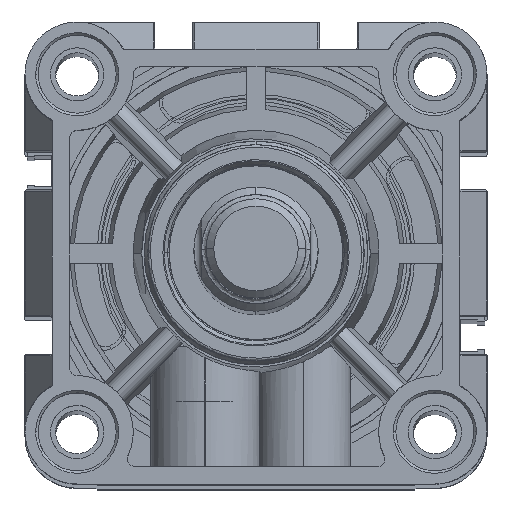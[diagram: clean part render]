
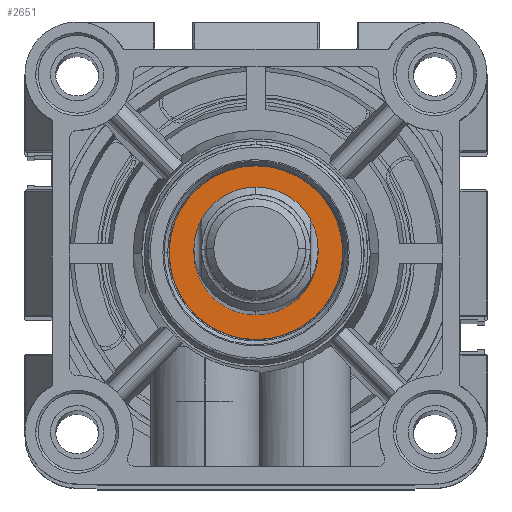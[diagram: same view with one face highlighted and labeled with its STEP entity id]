
A CAD part, top view. The second image highlights one B-rep face of the part: STEP entity #2651.
In plain terms, the highlighted planar face has unit normal (0, 0, 1).
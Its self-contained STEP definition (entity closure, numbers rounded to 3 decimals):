
#1512 = PLANE ( 'NONE',  #14258 ) ;
#2201 = ORIENTED_EDGE ( 'NONE', *, *, #17095, .F. ) ;
#2651 = ADVANCED_FACE ( 'NONE', ( #19511, #12785 ), #1512, .T. ) ;
#2784 = EDGE_CURVE ( 'NONE', #25869, #15018, #17288, .T. ) ;
#3995 = DIRECTION ( 'NONE',  ( 1., 0., 0. ) ) ;
#6172 = DIRECTION ( 'NONE',  ( 1., 0., 0. ) ) ;
#6549 = ORIENTED_EDGE ( 'NONE', *, *, #15985, .T. ) ;
#8045 = DIRECTION ( 'NONE',  ( 0., 0., 1. ) ) ;
#8131 = CARTESIAN_POINT ( 'NONE',  ( 58.488, 41., 69. ) ) ;
#8187 = CARTESIAN_POINT ( 'NONE',  ( 41., 41., 69. ) ) ;
#9571 = CIRCLE ( 'NONE', #13071, 17.488 ) ;
#10145 = CIRCLE ( 'NONE', #10216, 17.488 ) ;
#10216 = AXIS2_PLACEMENT_3D ( 'NONE', #8187, #8045, #6172 ) ;
#10806 = VERTEX_POINT ( 'NONE', #16964 ) ;
#10834 = ORIENTED_EDGE ( 'NONE', *, *, #2784, .F. ) ;
#11008 = EDGE_LOOP ( 'NONE', ( #10834, #2201 ) ) ;
#11196 = DIRECTION ( 'NONE',  ( 1., 0., 0. ) ) ;
#12042 = EDGE_CURVE ( 'NONE', #10806, #13637, #9571, .T. ) ;
#12785 = FACE_OUTER_BOUND ( 'NONE', #22205, .T. ) ;
#13071 = AXIS2_PLACEMENT_3D ( 'NONE', #17441, #17341, #17174 ) ;
#13561 = CARTESIAN_POINT ( 'NONE',  ( 41., 41., 69. ) ) ;
#13637 = VERTEX_POINT ( 'NONE', #8131 ) ;
#14258 = AXIS2_PLACEMENT_3D ( 'NONE', #13561, #29651, #11196 ) ;
#15018 = VERTEX_POINT ( 'NONE', #23575 ) ;
#15985 = EDGE_CURVE ( 'NONE', #13637, #10806, #10145, .T. ) ;
#16964 = CARTESIAN_POINT ( 'NONE',  ( 23.512, 41., 69. ) ) ;
#17095 = EDGE_CURVE ( 'NONE', #15018, #25869, #28832, .T. ) ;
#17174 = DIRECTION ( 'NONE',  ( 1., 0., 0. ) ) ;
#17288 = CIRCLE ( 'NONE', #26637, 12.5 ) ;
#17341 = DIRECTION ( 'NONE',  ( 0., 0., 1. ) ) ;
#17441 = CARTESIAN_POINT ( 'NONE',  ( 41., 41., 69. ) ) ;
#19511 = FACE_BOUND ( 'NONE', #11008, .T. ) ;
#19825 = AXIS2_PLACEMENT_3D ( 'NONE', #29133, #29098, #29066 ) ;
#20394 = DIRECTION ( 'NONE',  ( 0., 0., 1. ) ) ;
#22205 = EDGE_LOOP ( 'NONE', ( #6549, #24602 ) ) ;
#23575 = CARTESIAN_POINT ( 'NONE',  ( 28.5, 41., 69. ) ) ;
#24602 = ORIENTED_EDGE ( 'NONE', *, *, #12042, .T. ) ;
#25869 = VERTEX_POINT ( 'NONE', #27792 ) ;
#26637 = AXIS2_PLACEMENT_3D ( 'NONE', #29601, #20394, #3995 ) ;
#27792 = CARTESIAN_POINT ( 'NONE',  ( 53.5, 41., 69. ) ) ;
#28832 = CIRCLE ( 'NONE', #19825, 12.5 ) ;
#29066 = DIRECTION ( 'NONE',  ( 1., 0., 0. ) ) ;
#29098 = DIRECTION ( 'NONE',  ( 0., 0., 1. ) ) ;
#29133 = CARTESIAN_POINT ( 'NONE',  ( 41., 41., 69. ) ) ;
#29601 = CARTESIAN_POINT ( 'NONE',  ( 41., 41., 69. ) ) ;
#29651 = DIRECTION ( 'NONE',  ( 0., 0., 1. ) ) ;
